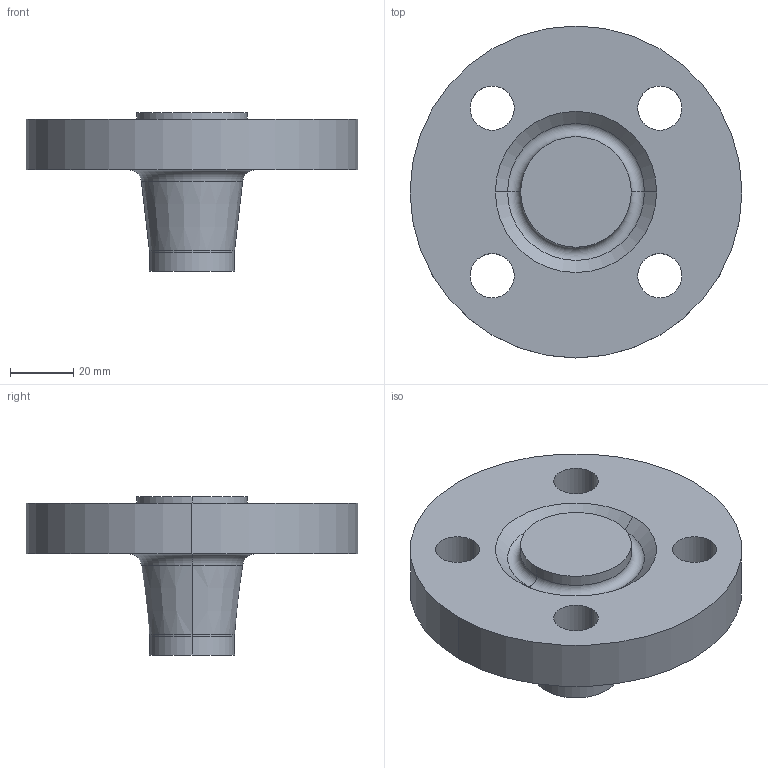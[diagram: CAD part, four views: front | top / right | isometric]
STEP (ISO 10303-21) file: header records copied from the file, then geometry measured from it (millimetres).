
FILE_DESCRIPTION (( 'STEP AP214' ), '1' );
FILE_NAME ('PN40 DN20 Type 21(ii) - Type H Face.STEP', '2018-12-29T16:09:38', ( '' ), ( '' ), 'SwSTEP 2.0', 'SolidWorks 2019', '' );
FILE_SCHEMA (( 'AUTOMOTIVE_DESIGN' ));
Length unit declared in the file: millimetre
Products named in the file (1): PN40 DN20 Type 21(ii) - Type H Face
Bounding box: 105 x 105 x 50 mm (x, y, z)
Volume: 149793.2 mm3; surface area: 27485.7 mm2
Topology: 1 solids, 1 shells, 28 faces, 62 edges, 38 vertices
Faces by surface type: cylinder 14, torus 6, cone 4, plane 4
Entity records: 840 total; most frequent: DIRECTION 164, CARTESIAN_POINT 129, ORIENTED_EDGE 124, AXIS2_PLACEMENT_3D 73, EDGE_CURVE 62, CIRCLE 44, VERTEX_POINT 38, EDGE_LOOP 38
